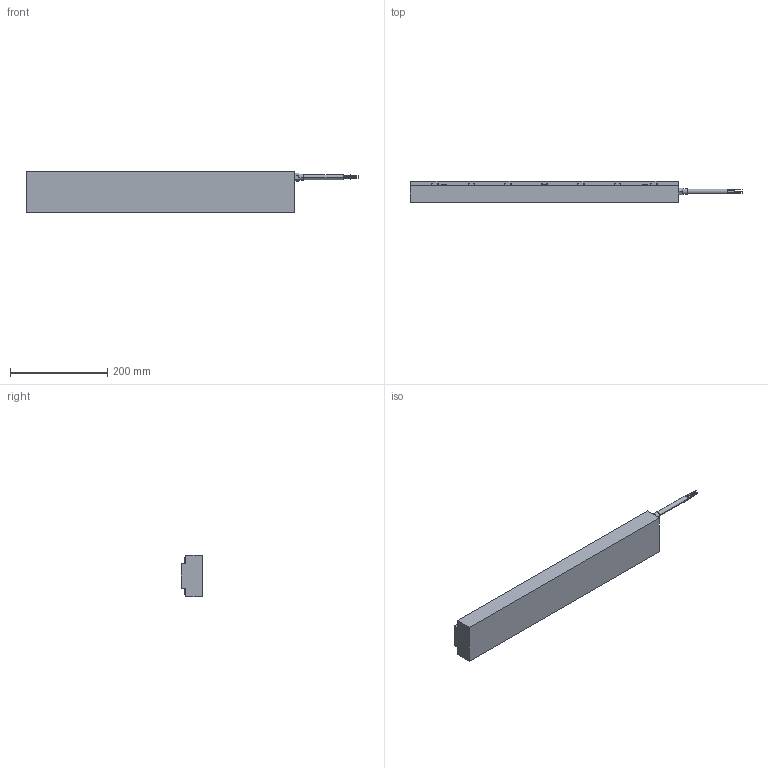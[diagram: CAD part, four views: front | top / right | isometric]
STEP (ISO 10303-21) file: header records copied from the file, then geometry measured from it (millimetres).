
FILE_DESCRIPTION((''),'2;1');
FILE_NAME('IC33_50','2010-03-09T',('brad.winesett'),('Kollmorgen'),'PRO/ENGINEER BY PARAMETRIC TECHNOLOGY CORPORATION, 2006510','PRO/ENGINEER BY PARAMETRIC TECHNOLOGY CORPORATION, 2006510','');
FILE_SCHEMA(('CONFIG_CONTROL_DESIGN'));
Length unit declared in the file: millimetre
Products named in the file (1): IC33_50
Bounding box: 682.2 x 43.3 x 85 mm (x, y, z)
Volume: 1877785.9 mm3; surface area: 170752.7 mm2
Topology: 1 solids, 15 shells, 312 faces, 774 edges, 502 vertices
Faces by surface type: plane 180, cylinder 104, cone 28
Entity records: 9103 total; most frequent: DIRECTION 1608, CARTESIAN_POINT 1561, ORIENTED_EDGE 1436, EDGE_CURVE 746, AXIS2_PLACEMENT_3D 549, VECTOR 510, LINE 510, VERTEX_POINT 502
